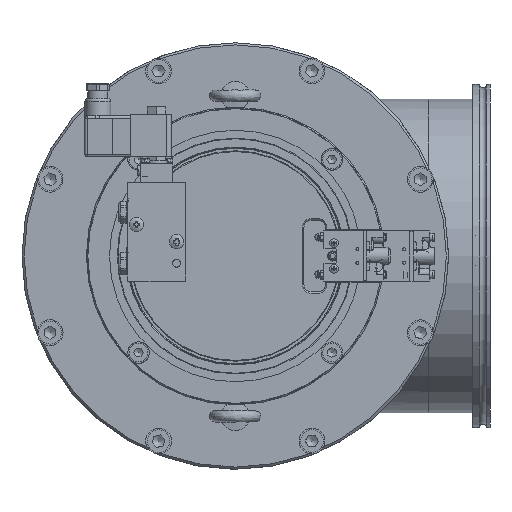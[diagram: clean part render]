
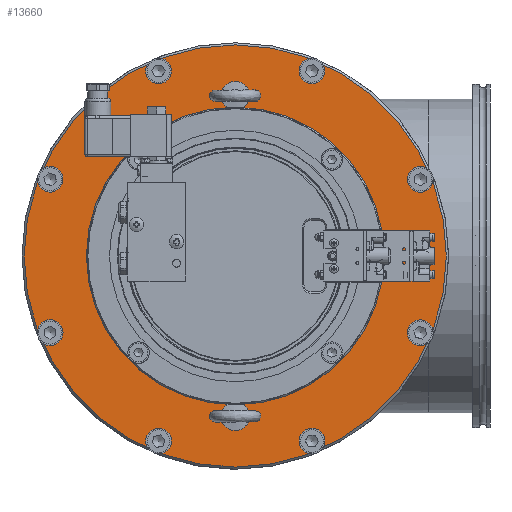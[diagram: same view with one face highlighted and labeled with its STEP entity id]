
A CAD part, left-side view. The second image highlights one B-rep face of the part: STEP entity #13660.
In plain terms, the highlighted planar face has unit normal (-1, 0, 0).
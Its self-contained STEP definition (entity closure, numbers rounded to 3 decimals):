
#9887=PLANE('',#27364);
#13660=ADVANCED_FACE('BCT_REF_68270',(#14688,#14689,#14690,#14691,#14692,
#14693,#14694,#14695,#14696,#14697,#14698,#14699,#14700,#14701,#14702,#14703),
#9887,.F.);
#14688=FACE_BOUND('',#16346,.T.);
#14689=FACE_BOUND('',#16347,.T.);
#14690=FACE_BOUND('',#16348,.T.);
#14691=FACE_BOUND('',#16349,.T.);
#14692=FACE_BOUND('',#16350,.T.);
#14693=FACE_BOUND('',#16351,.T.);
#14694=FACE_BOUND('',#16352,.T.);
#14695=FACE_BOUND('',#16353,.T.);
#14696=FACE_BOUND('',#16354,.T.);
#14697=FACE_BOUND('',#16355,.T.);
#14698=FACE_BOUND('',#16356,.T.);
#14699=FACE_BOUND('',#16357,.T.);
#14700=FACE_BOUND('',#16358,.T.);
#14701=FACE_BOUND('',#16359,.T.);
#14702=FACE_BOUND('',#16360,.T.);
#14703=FACE_BOUND('',#16361,.T.);
#16346=EDGE_LOOP('',(#20801));
#16347=EDGE_LOOP('',(#20802));
#16348=EDGE_LOOP('',(#20803));
#16349=EDGE_LOOP('',(#20804));
#16350=EDGE_LOOP('',(#20805));
#16351=EDGE_LOOP('',(#20806));
#16352=EDGE_LOOP('',(#20807));
#16353=EDGE_LOOP('',(#20808));
#16354=EDGE_LOOP('',(#20809));
#16355=EDGE_LOOP('',(#20810));
#16356=EDGE_LOOP('',(#20811));
#16357=EDGE_LOOP('',(#20812));
#16358=EDGE_LOOP('',(#20813));
#16359=EDGE_LOOP('',(#20814));
#16360=EDGE_LOOP('',(#20815));
#16361=EDGE_LOOP('',(#20816));
#20801=ORIENTED_EDGE('',*,*,#24733,.T.);
#20802=ORIENTED_EDGE('',*,*,#24734,.T.);
#20803=ORIENTED_EDGE('',*,*,#24735,.F.);
#20804=ORIENTED_EDGE('',*,*,#24736,.T.);
#20805=ORIENTED_EDGE('',*,*,#24737,.T.);
#20806=ORIENTED_EDGE('',*,*,#24738,.T.);
#20807=ORIENTED_EDGE('',*,*,#24739,.T.);
#20808=ORIENTED_EDGE('',*,*,#24740,.T.);
#20809=ORIENTED_EDGE('',*,*,#24741,.T.);
#20810=ORIENTED_EDGE('',*,*,#24742,.T.);
#20811=ORIENTED_EDGE('',*,*,#24743,.T.);
#20812=ORIENTED_EDGE('',*,*,#24744,.T.);
#20813=ORIENTED_EDGE('',*,*,#24745,.T.);
#20814=ORIENTED_EDGE('',*,*,#24746,.T.);
#20815=ORIENTED_EDGE('',*,*,#24747,.T.);
#20816=ORIENTED_EDGE('',*,*,#24748,.T.);
#22496=VERTEX_POINT('',#44217);
#22497=VERTEX_POINT('',#44219);
#22498=VERTEX_POINT('',#44221);
#22499=VERTEX_POINT('',#44223);
#22500=VERTEX_POINT('',#44225);
#22501=VERTEX_POINT('',#44227);
#22502=VERTEX_POINT('',#44229);
#22503=VERTEX_POINT('',#44231);
#22504=VERTEX_POINT('',#44233);
#22505=VERTEX_POINT('',#44235);
#22506=VERTEX_POINT('',#44237);
#22507=VERTEX_POINT('',#44239);
#22508=VERTEX_POINT('',#44241);
#22509=VERTEX_POINT('',#44243);
#22510=VERTEX_POINT('',#44245);
#22511=VERTEX_POINT('',#44247);
#24733=EDGE_CURVE('BCT_REF_68195',#22496,#22496,#25546,.T.);
#24734=EDGE_CURVE('BCT_REF_68231',#22497,#22497,#25547,.T.);
#24735=EDGE_CURVE('',#22498,#22498,#25548,.T.);
#24736=EDGE_CURVE('',#22499,#22499,#25549,.T.);
#24737=EDGE_CURVE('',#22500,#22500,#25550,.T.);
#24738=EDGE_CURVE('',#22501,#22501,#25551,.T.);
#24739=EDGE_CURVE('',#22502,#22502,#25552,.T.);
#24740=EDGE_CURVE('',#22503,#22503,#25553,.T.);
#24741=EDGE_CURVE('',#22504,#22504,#25554,.T.);
#24742=EDGE_CURVE('',#22505,#22505,#25555,.T.);
#24743=EDGE_CURVE('',#22506,#22506,#25556,.T.);
#24744=EDGE_CURVE('',#22507,#22507,#25557,.T.);
#24745=EDGE_CURVE('',#22508,#22508,#25558,.T.);
#24746=EDGE_CURVE('',#22509,#22509,#25559,.T.);
#24747=EDGE_CURVE('',#22510,#22510,#25560,.T.);
#24748=EDGE_CURVE('',#22511,#22511,#25561,.T.);
#25546=CIRCLE('',#27348,88.75);
#25547=CIRCLE('',#27349,147.5);
#25548=CIRCLE('',#27350,3.4);
#25549=CIRCLE('',#27351,3.4);
#25550=CIRCLE('',#27352,4.25);
#25551=CIRCLE('',#27353,4.25);
#25552=CIRCLE('',#27354,4.25);
#25553=CIRCLE('',#27355,4.25);
#25554=CIRCLE('',#27356,5.5);
#25555=CIRCLE('',#27357,5.5);
#25556=CIRCLE('',#27358,5.5);
#25557=CIRCLE('',#27359,5.5);
#25558=CIRCLE('',#27360,5.5);
#25559=CIRCLE('',#27361,5.5);
#25560=CIRCLE('',#27362,5.5);
#25561=CIRCLE('',#27363,5.5);
#27348=AXIS2_PLACEMENT_3D('',#44216,#32049,#32050);
#27349=AXIS2_PLACEMENT_3D('',#44218,#32051,#32052);
#27350=AXIS2_PLACEMENT_3D('',#44220,#32053,#32054);
#27351=AXIS2_PLACEMENT_3D('',#44222,#32055,#32056);
#27352=AXIS2_PLACEMENT_3D('',#44224,#32057,#32058);
#27353=AXIS2_PLACEMENT_3D('',#44226,#32059,#32060);
#27354=AXIS2_PLACEMENT_3D('',#44228,#32061,#32062);
#27355=AXIS2_PLACEMENT_3D('',#44230,#32063,#32064);
#27356=AXIS2_PLACEMENT_3D('',#44232,#32065,#32066);
#27357=AXIS2_PLACEMENT_3D('',#44234,#32067,#32068);
#27358=AXIS2_PLACEMENT_3D('',#44236,#32069,#32070);
#27359=AXIS2_PLACEMENT_3D('',#44238,#32071,#32072);
#27360=AXIS2_PLACEMENT_3D('',#44240,#32073,#32074);
#27361=AXIS2_PLACEMENT_3D('',#44242,#32075,#32076);
#27362=AXIS2_PLACEMENT_3D('',#44244,#32077,#32078);
#27363=AXIS2_PLACEMENT_3D('',#44246,#32079,#32080);
#27364=AXIS2_PLACEMENT_3D('',#44248,#32081,#32082);
#32049=DIRECTION('',(1.,0.,0.));
#32050=DIRECTION('',(0.,0.,-1.));
#32051=DIRECTION('',(-1.,0.,0.));
#32052=DIRECTION('',(0.,0.,-1.));
#32053=DIRECTION('',(-1.,0.,0.));
#32054=DIRECTION('',(0.,0.,-1.));
#32055=DIRECTION('',(1.,0.,0.));
#32056=DIRECTION('',(0.,0.,-1.));
#32057=DIRECTION('',(1.,0.,0.));
#32058=DIRECTION('',(0.,-1.,0.));
#32059=DIRECTION('',(1.,0.,0.));
#32060=DIRECTION('',(0.,0.,1.));
#32061=DIRECTION('',(1.,0.,0.));
#32062=DIRECTION('',(0.,1.,0.));
#32063=DIRECTION('',(1.,0.,0.));
#32064=DIRECTION('',(0.,0.,-1.));
#32065=DIRECTION('',(1.,0.,0.));
#32066=DIRECTION('',(0.,-0.707,-0.707));
#32067=DIRECTION('',(1.,0.,0.));
#32068=DIRECTION('',(0.,-1.,0.));
#32069=DIRECTION('',(1.,0.,0.));
#32070=DIRECTION('',(0.,-0.707,0.707));
#32071=DIRECTION('',(1.,0.,0.));
#32072=DIRECTION('',(0.,0.,1.));
#32073=DIRECTION('',(1.,0.,0.));
#32074=DIRECTION('',(0.,0.707,0.707));
#32075=DIRECTION('',(1.,0.,0.));
#32076=DIRECTION('',(0.,1.,0.));
#32077=DIRECTION('',(1.,0.,0.));
#32078=DIRECTION('',(0.,0.707,-0.707));
#32079=DIRECTION('',(1.,0.,0.));
#32080=DIRECTION('',(0.,0.,-1.));
#32081=DIRECTION('',(1.,0.,0.));
#32082=DIRECTION('',(0.,0.,-1.));
#44216=CARTESIAN_POINT('',(0.,0.,0.));
#44217=CARTESIAN_POINT('',(0.,0.,-88.75));
#44218=CARTESIAN_POINT('',(0.,0.,0.));
#44219=CARTESIAN_POINT('',(0.,0.,-147.5));
#44220=CARTESIAN_POINT('',(0.,-112.,0.));
#44221=CARTESIAN_POINT('',(0.,-112.,-3.4));
#44222=CARTESIAN_POINT('',(0.,112.,0.));
#44223=CARTESIAN_POINT('',(0.,112.,-3.4));
#44224=CARTESIAN_POINT('',(0.,67.529,67.529));
#44225=CARTESIAN_POINT('',(0.,63.279,67.529));
#44226=CARTESIAN_POINT('',(0.,67.529,-67.529));
#44227=CARTESIAN_POINT('',(0.,67.529,-63.279));
#44228=CARTESIAN_POINT('',(0.,-67.529,-67.529));
#44229=CARTESIAN_POINT('',(0.,-63.279,-67.529));
#44230=CARTESIAN_POINT('',(0.,-67.529,67.529));
#44231=CARTESIAN_POINT('',(0.,-67.529,63.279));
#44232=CARTESIAN_POINT('',(0.,53.576,129.343));
#44233=CARTESIAN_POINT('',(0.,49.687,125.454));
#44234=CARTESIAN_POINT('',(0.,129.343,53.576));
#44235=CARTESIAN_POINT('',(0.,123.843,53.576));
#44236=CARTESIAN_POINT('',(0.,129.343,-53.576));
#44237=CARTESIAN_POINT('',(0.,125.454,-49.687));
#44238=CARTESIAN_POINT('',(0.,53.576,-129.343));
#44239=CARTESIAN_POINT('',(0.,53.576,-123.843));
#44240=CARTESIAN_POINT('',(0.,-53.576,-129.343));
#44241=CARTESIAN_POINT('',(0.,-49.687,-125.454));
#44242=CARTESIAN_POINT('',(0.,-129.343,-53.576));
#44243=CARTESIAN_POINT('',(0.,-123.843,-53.576));
#44244=CARTESIAN_POINT('',(0.,-129.343,53.576));
#44245=CARTESIAN_POINT('',(0.,-125.454,49.687));
#44246=CARTESIAN_POINT('',(0.,-53.576,129.343));
#44247=CARTESIAN_POINT('',(0.,-53.576,123.843));
#44248=CARTESIAN_POINT('',(0.,0.,149.));
